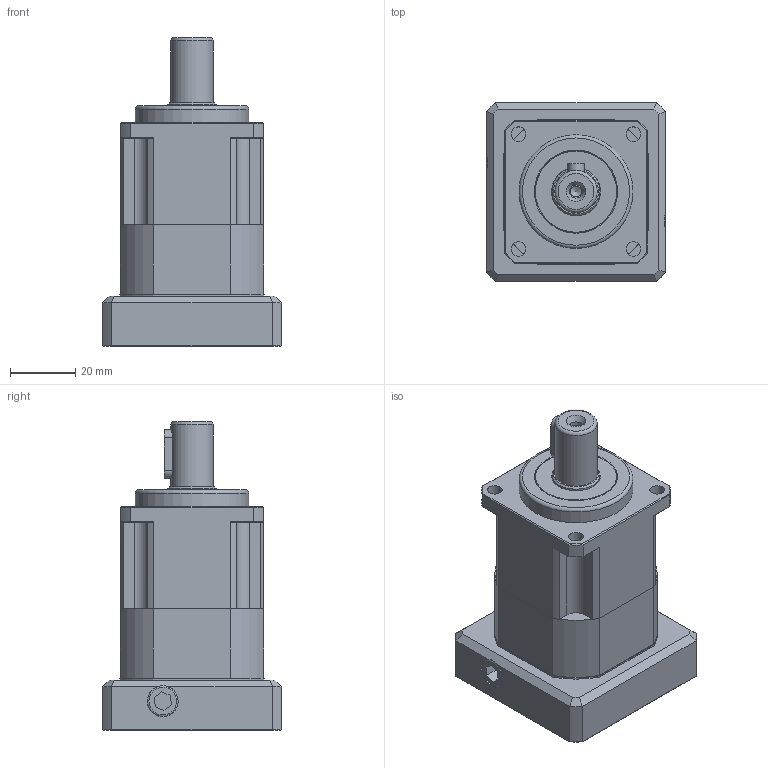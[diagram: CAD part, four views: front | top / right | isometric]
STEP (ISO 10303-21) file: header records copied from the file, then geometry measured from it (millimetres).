
FILE_DESCRIPTION((''),'2;1');
FILE_NAME('E:\감속기 도면\조립도(서보규격별)\KSB_PGX-H\KSB-44 (PGX44-H)\KSB-44-1 (38.1-66.67-M4-S6.35).stp','2021-09-14T13:26:56',('young'),(''),'Autodesk Inventor 2012','Autodesk Inventor 2012','');
FILE_SCHEMA(('AUTOMOTIVE_DESIGN { 1 0 10303 214 1 1 1 1 }'));
Length unit declared in the file: millimetre
Products named in the file (3): 조립품2; PGX44-H-3(EzM-56S); Bush(8-6
Assembly tree (2 placements, depth 2):
  조립품2
    PGX44-H-3(EzM-56S)
    Bush(8-6
Bounding box: 55 x 55 x 95 mm (x, y, z)
Volume: 119587.3 mm3; surface area: 43210.8 mm2
Topology: 15 solids, 15 shells, 471 faces, 1159 edges, 748 vertices
Faces by surface type: plane 241, cylinder 136, cone 71, torus 14, bspline 9
Full cylindrical faces by diameter (mm): 2.5 x4, 3.242 x1, 3.3 x9, 4 x6, 4.2 x4, 4.5 x9, 6 x4, 7 x5, 8.195 x2, 8.2 x1, 13 x1, 14.2 x1, 14.8 x2, 15 x3, 25 x4, 28 x1, 30 x1, 32 x2, 35 x1
Entity records: 14033 total; most frequent: CARTESIAN_POINT 3362, DIRECTION 2179, ORIENTED_EDGE 2034, EDGE_CURVE 1017, AXIS2_PLACEMENT_3D 832, VERTEX_POINT 716, EDGE_LOOP 647, VECTOR 515
